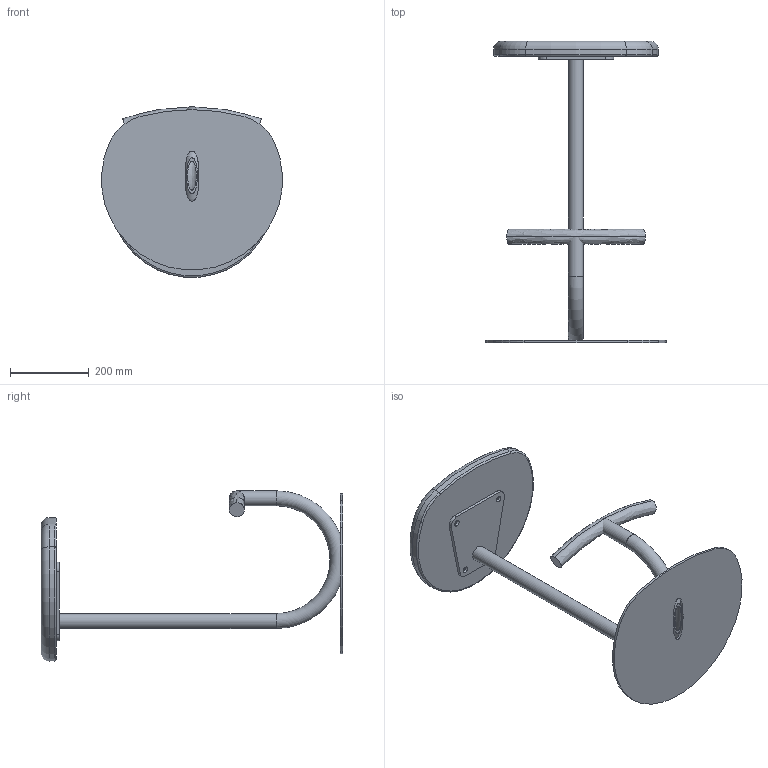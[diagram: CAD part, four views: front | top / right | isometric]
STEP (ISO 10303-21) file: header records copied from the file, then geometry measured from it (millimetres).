
FILE_DESCRIPTION(/* description */ ('RIDE80'),/* implementation_level */ '2;1');
FILE_NAME(/* name */ 'C:\Users\efgscfr\Desktop\Vertex\RIDE80.stp',/* time_stamp */ '2019-04-05T13:25:07+02:00',/* author */ ('efgscfr'),/* organization */ (''),/* preprocessor_version */ 'ST-DEVELOPER v17.2',/* originating_system */ 'Autodesk Inventor 2019',/* authorisation */ '');
FILE_SCHEMA (('AUTOMOTIVE_DESIGN { 1 0 10303 214 3 1 1 }'));
Length unit declared in the file: millimetre
Products named in the file (6): 160420; 159188; 159186; 159183; 160417; S00102
Assembly tree (8 placements, depth 2):
  160420
    159188
    159186
    159183
    160417
    S00102  x4
Bounding box: 458.92 x 766 x 433.06 mm (x, y, z)
Volume: 6427371 mm3; surface area: 966819.9 mm2
Topology: 9 solids, 9 shells, 226 faces, 597 edges, 394 vertices
Faces by surface type: plane 123, cylinder 81, torus 10, cone 8, bspline 4
Full cylindrical faces by diameter (mm): 8 x8, 10 x4, 11 x4, 34 x2, 38 x2, 38.5 x1
Entity records: 4280 total; most frequent: CARTESIAN_POINT 1356, DIRECTION 611, ORIENTED_EDGE 526, EDGE_CURVE 263, AXIS2_PLACEMENT_3D 245, VERTEX_POINT 178, CIRCLE 128, EDGE_LOOP 127
